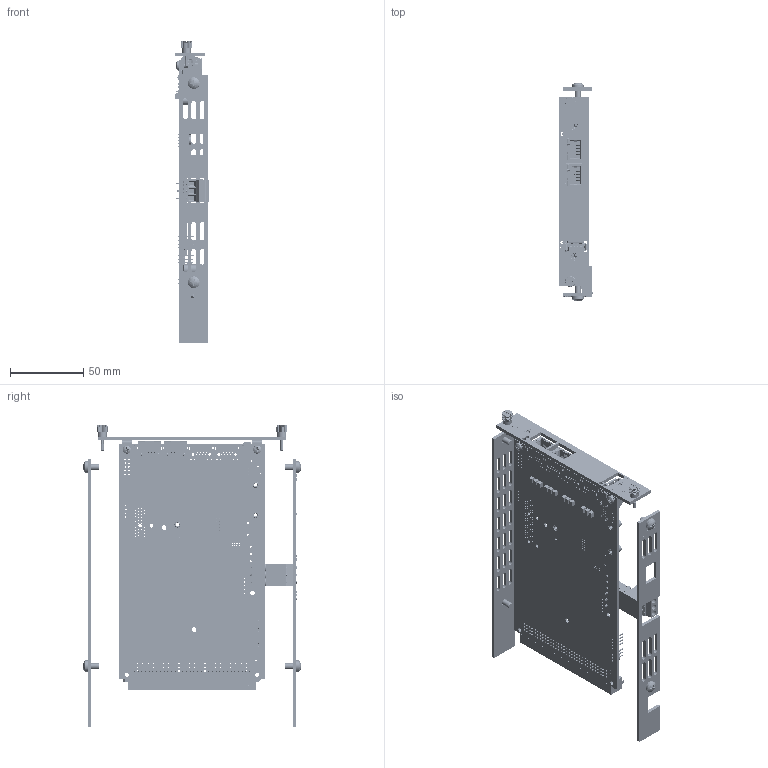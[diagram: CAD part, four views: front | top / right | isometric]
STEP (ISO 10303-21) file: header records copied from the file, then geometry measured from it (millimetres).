
FILE_DESCRIPTION (( 'STEP AP214' ), '1' );
FILE_NAME ('3-4112AAU-xx0-B00000.STEP', '2022-08-05T18:54:42', ( '' ), ( '' ), 'SwSTEP 2.0', 'SolidWorks 2022', '' );
FILE_SCHEMA (( 'AUTOMOTIVE_DESIGN' ));
Length unit declared in the file: inch
Products named in the file (32): 014-0RJE73-4K0; 0S7-016337-003_b; 200-604019-100; 2M1-B04112-553; 0S1-LCMX02-256; 014-048404-003; 2M2-B04112-551; S19-PTS840-0GK; 0S1-LS1021-1KZ; 200-604112-554; 014-000031; 016-090A03-08P; 100-0001GB-M3B; 014-000010-2MM; S13-0H5007-0NL; S25-0S0440-250; APT1608SGC; 2L0-604112-550; S14-00DDR3-204; 014-S90M96-00E; 025-920440-2004; 0S7-010226-000; 2M1-B03032-551; 2M0-603041-550; 016-P00103-08P; 027-130007-ASY; APTB1612YSGC-F01; 300-604112-10X_104; 3-4112AAU-xx0-B00000; 025-00M400-2M08; 025-10M2R5-2005_5mm
Assembly tree (54 placements, depth 3):
  3-4112AAU-xx0-B00000
    300-604112-10X_104
      200-604112-554
      0S7-010226-000  x12
      0S1-LCMX02-256
      0S1-LS1021-1KZ
      S13-0H5007-0NL  x2
      014-0RJE73-4K0  x2
      014-048404-003
      016-090A03-08P
      S25-0S0440-250  x3
      0S7-016337-003_b
      S19-PTS840-0GK
      APTB1612YSGC-F01  x2
      APT1608SGC
      014-S90M96-00E
      027-130007-ASY
      S14-00DDR3-204
      014-000010-2MM
      014-000031
    2M2-B04112-551
    2L0-604112-550
    2M1-B03032-551
    200-604019-100  x2
    2M1-B04112-553
      2M1-B04112-553
      2M0-603041-550  x2
      025-10M2R5-2005_5mm  x2
    100-0001GB-M3B
    025-920440-2004  x2
    025-00M400-2M08  x4
    016-P00103-08P
Bounding box: 23.04 x 149.1 x 206.4 mm (x, y, z)
Volume: 72224.5 mm3; surface area: 105267.9 mm2
Topology: 296 solids, 300 shells, 20528 faces, 56428 edges, 37240 vertices
Faces by surface type: plane 15366, cylinder 3684, bspline 1210, cone 244, sphere 12, torus 12
Entity records: 660795 total; most frequent: CARTESIAN_POINT 174394, ORIENTED_EDGE 90078, DIRECTION 71451, EDGE_CURVE 45047, LINE 33191, VECTOR 33191, VERTEX_POINT 29732, AXIS2_PLACEMENT_3D 19130
